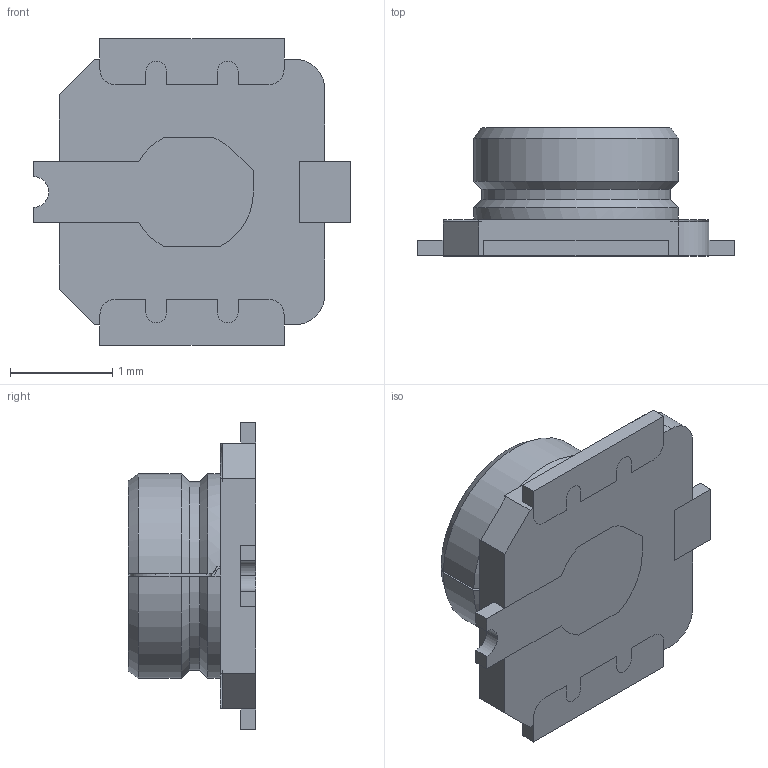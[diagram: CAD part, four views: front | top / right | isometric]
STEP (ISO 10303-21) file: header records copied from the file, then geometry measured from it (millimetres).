
FILE_DESCRIPTION (( 'STEP AP203' ), '1' );
FILE_NAME ('20441-001E-01C RECEPTACLE STEP R4 ALL.STEP', '2023-11-21T09:03:16', ( '' ), ( '' ), 'SwSTEP 2.0', 'SolidWorks 2023', '' );
FILE_SCHEMA (( 'CONFIG_CONTROL_DESIGN' ));
Length unit declared in the file: millimetre
Products named in the file (1): 20441-001E-01C RECEPTACLE STEP R4 ALL
Bounding box: 3.1 x 1.25 x 3 mm (x, y, z)
Surface area: 34.1 mm2 (no closed solid volume)
Topology: 0 solids, 5 shells, 83 faces, 263 edges, 186 vertices
Faces by surface type: plane 46, cylinder 25, torus 5, cone 5, sphere 2
Entity records: 3068 total; most frequent: CARTESIAN_POINT 659, DIRECTION 489, ORIENTED_EDGE 473, EDGE_CURVE 259, VERTEX_POINT 184, LINE 167, VECTOR 167, AXIS2_PLACEMENT_3D 161
